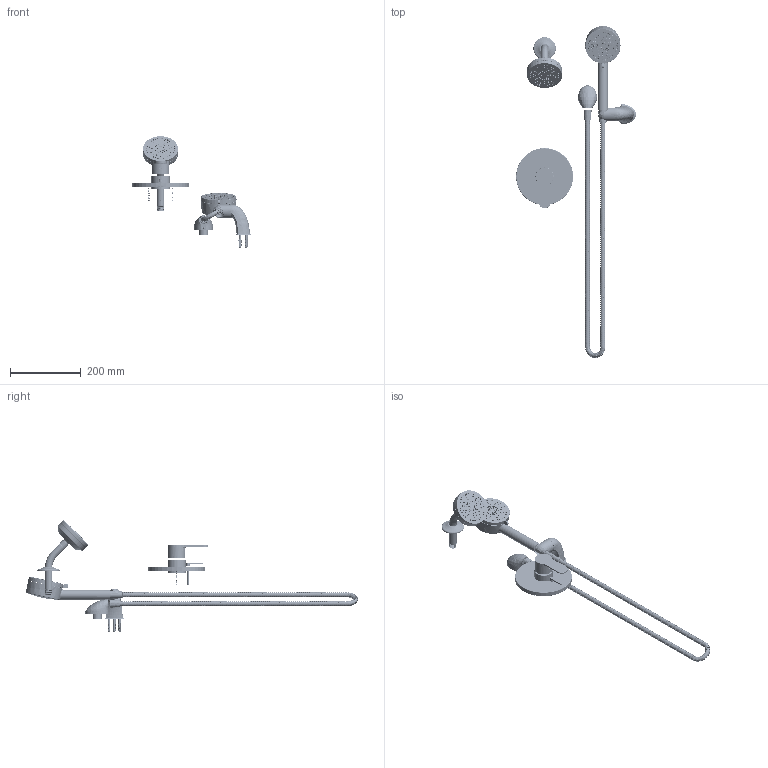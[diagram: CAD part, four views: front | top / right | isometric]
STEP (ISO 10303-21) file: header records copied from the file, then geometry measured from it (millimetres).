
FILE_DESCRIPTION (( 'STEP AP214' ), '1' );
FILE_NAME ('S6798TRM.STEP', '2025-01-15T09:03:56', ( '' ), ( '' ), 'SwSTEP 2.0', 'SolidWorks 2023', '' );
FILE_SCHEMA (( 'AUTOMOTIVE_DESIGN' ));
Products named in the file (1): S6798TRM
Bounding box: 338.77 x 938.92 x 315.54 mm (x, y, z)
Surface area: 365231 mm2 (no closed solid volume)
Topology: 0 solids, 419 shells, 2044 faces, 7806 edges, 5966 vertices
Faces by surface type: bspline 566, cone 472, plane 435, cylinder 428, torus 124, sphere 19
Entity records: 357867 total; most frequent: CARTESIAN_POINT 302291, ORIENTED_EDGE 10874, DIRECTION 8809, EDGE_CURVE 7788, VERTEX_POINT 5963, B_SPLINE_CURVE_WITH_KNOTS 3569, AXIS2_PLACEMENT_3D 3442, EDGE_LOOP 2616
